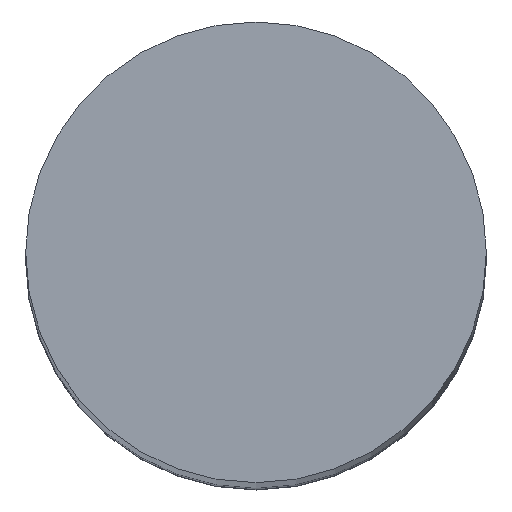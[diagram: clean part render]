
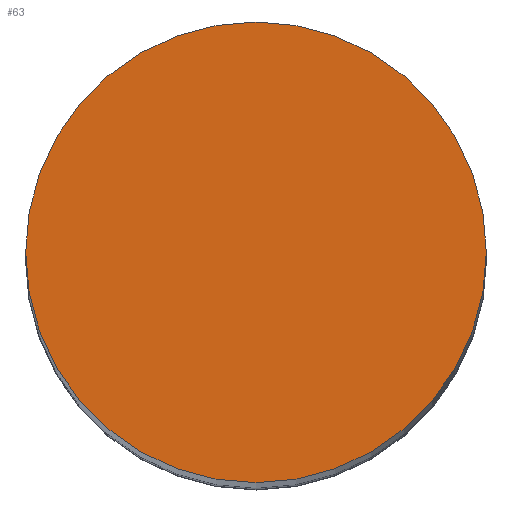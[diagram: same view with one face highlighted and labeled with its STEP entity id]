
A CAD part, top view. The second image highlights one B-rep face of the part: STEP entity #63.
In plain terms, the highlighted planar face has unit normal (0, 0, 1).
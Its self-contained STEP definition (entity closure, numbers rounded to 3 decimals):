
#63=ADVANCED_FACE('',(#122),#123,.T.);
#122=FACE_OUTER_BOUND('',#174,.T.);
#123=PLANE('',#175);
#174=EDGE_LOOP('',(#277,#278));
#175=AXIS2_PLACEMENT_3D('',#279,#280,#281);
#277=ORIENTED_EDGE('',*,*,#328,.T.);
#278=ORIENTED_EDGE('',*,*,#301,.T.);
#279=CARTESIAN_POINT('',(0.0,0.0,0.0));
#280=DIRECTION('',(0.0,0.0,1.0));
#281=DIRECTION('',(1.0,0.0,0.0));
#301=EDGE_CURVE('',#348,#345,#349,.T.);
#328=EDGE_CURVE('',#345,#348,#385,.T.);
#345=VERTEX_POINT('',#402);
#348=VERTEX_POINT('',#406);
#349=CIRCLE('',#407,8.0);
#385=CIRCLE('',#448,8.0);
#402=CARTESIAN_POINT('',(-8.0,0.0,0.0));
#406=CARTESIAN_POINT('',(8.0,0.,0.0));
#407=AXIS2_PLACEMENT_3D('',#471,#472,#473);
#448=AXIS2_PLACEMENT_3D('',#515,#516,#517);
#471=CARTESIAN_POINT('',(0.0,0.0,0.0));
#472=DIRECTION('',(0.0,0.0,1.0));
#473=DIRECTION('',(-1.0,0.0,0.0));
#515=CARTESIAN_POINT('',(0.0,0.0,0.0));
#516=DIRECTION('',(0.0,0.0,1.0));
#517=DIRECTION('',(-1.0,0.0,0.0));
